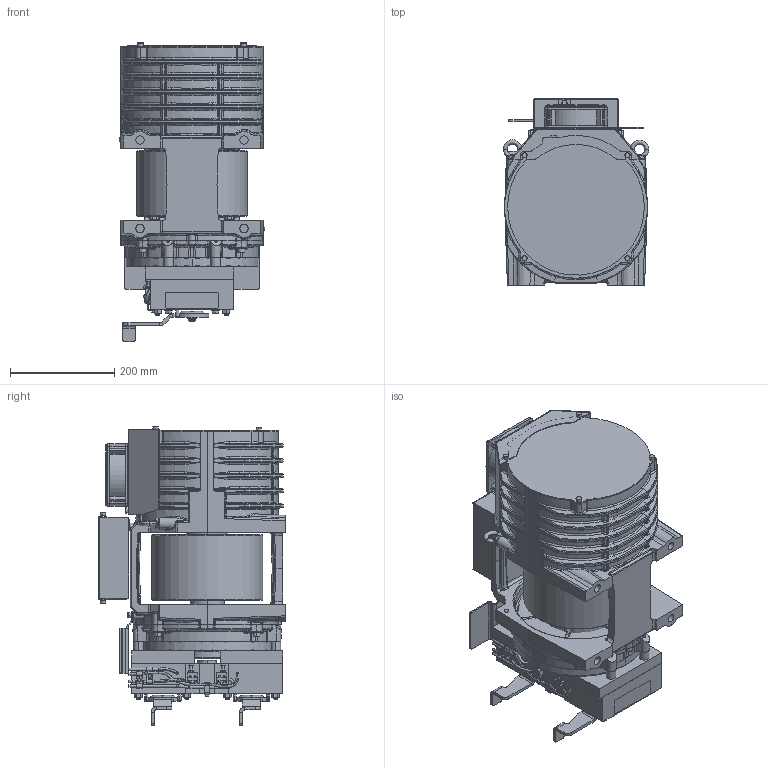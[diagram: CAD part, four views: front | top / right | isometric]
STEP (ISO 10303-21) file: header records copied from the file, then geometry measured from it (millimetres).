
FILE_DESCRIPTION((''),'2;1');
FILE_NAME('00349188_ASM','2019-06-03T',('polieridb'),('Sicor spa'),'CREO PARAMETRIC BY PTC INC, 2017170','CREO PARAMETRIC BY PTC INC, 2017170','');
FILE_SCHEMA(('CONFIG_CONTROL_DESIGN'));
Length unit declared in the file: millimetre
Products named in the file (3): 00332487_SW0001; 00279921; 00349188_ASM
Assembly tree (2 placements, depth 2):
  00349188_ASM
    00332487_SW0001
    00279921
Bounding box: 280 x 358 x 574.52 mm (x, y, z)
Volume: 2596946.1 mm3; surface area: 2023195.6 mm2
Topology: 1 solids, 172 shells, 3370 faces, 9175 edges, 5736 vertices
Faces by surface type: cylinder 928, bspline 917, plane 756, torus 379, cone 296, sphere 74, extrusion 13, revolution 7
Entity records: 197873 total; most frequent: CARTESIAN_POINT 123933, ORIENTED_EDGE 16330, DIRECTION 12991, EDGE_CURVE 9088, VERTEX_POINT 5736, AXIS2_PLACEMENT_3D 5221, B_SPLINE_CURVE_WITH_KNOTS 3798, EDGE_LOOP 3386
